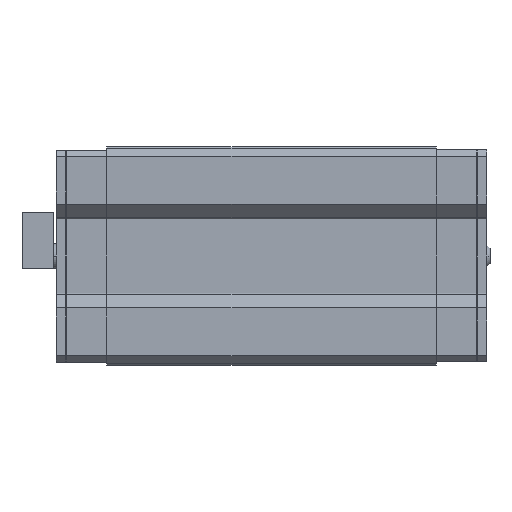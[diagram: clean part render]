
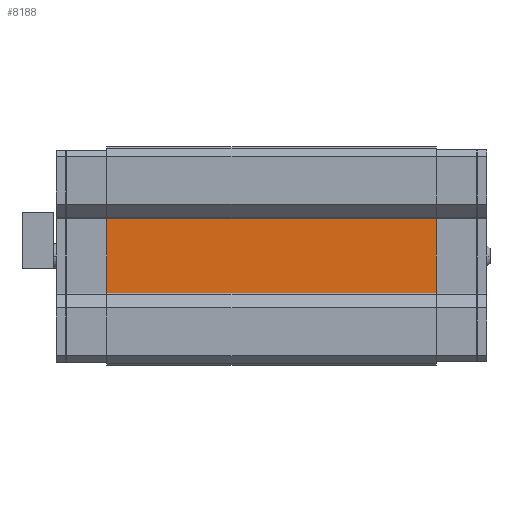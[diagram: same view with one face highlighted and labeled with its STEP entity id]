
A CAD part, front view. The second image highlights one B-rep face of the part: STEP entity #8188.
In plain terms, the highlighted planar face has unit normal (0, -1, 0).
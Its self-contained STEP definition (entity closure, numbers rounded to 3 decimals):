
#85 = DIRECTION ( 'NONE',  ( -1., 0., 0. ) ) ;
#300 = FACE_OUTER_BOUND ( 'NONE', #4747, .T. ) ;
#430 = CARTESIAN_POINT ( 'NONE',  ( 52.9, 0., 6.626 ) ) ;
#542 = LINE ( 'NONE', #430, #5792 ) ;
#850 = VERTEX_POINT ( 'NONE', #2535 ) ;
#923 = LINE ( 'NONE', #2826, #10405 ) ;
#1701 = DIRECTION ( 'NONE',  ( 0., 0., 1. ) ) ;
#1810 = DIRECTION ( 'NONE',  ( -1., 0., 0. ) ) ;
#2006 = DIRECTION ( 'NONE',  ( 0., 0., -1. ) ) ;
#2074 = DIRECTION ( 'NONE',  ( 0., -1., 0. ) ) ;
#2082 = VERTEX_POINT ( 'NONE', #10784 ) ;
#2207 = VERTEX_POINT ( 'NONE', #10645 ) ;
#2535 = CARTESIAN_POINT ( 'NONE',  ( 52.9, 0., 13.251 ) ) ;
#2826 = CARTESIAN_POINT ( 'NONE',  ( -52.9, 0., 6.626 ) ) ;
#3215 = EDGE_CURVE ( 'NONE', #2207, #9275, #923, .T. ) ;
#3416 = EDGE_CURVE ( 'NONE', #850, #2082, #542, .T. ) ;
#3541 = CARTESIAN_POINT ( 'NONE',  ( 69.1, 0., 13.251 ) ) ;
#4226 = ORIENTED_EDGE ( 'NONE', *, *, #10626, .F. ) ;
#4329 = LINE ( 'NONE', #7705, #4766 ) ;
#4747 = EDGE_LOOP ( 'NONE', ( #8197, #4226, #9690, #5721 ) ) ;
#4766 = VECTOR ( 'NONE', #1810, 1000. ) ;
#5249 = CARTESIAN_POINT ( 'NONE',  ( -52.9, 0., 13.251 ) ) ;
#5253 = CARTESIAN_POINT ( 'NONE',  ( -52.9, 0., 13.251 ) ) ;
#5721 = ORIENTED_EDGE ( 'NONE', *, *, #7646, .T. ) ;
#5792 = VECTOR ( 'NONE', #9651, 1000. ) ;
#5918 = LINE ( 'NONE', #3541, #9318 ) ;
#7646 = EDGE_CURVE ( 'NONE', #850, #9275, #5918, .T. ) ;
#7705 = CARTESIAN_POINT ( 'NONE',  ( 69.1, 0., -13.251 ) ) ;
#8188 = ADVANCED_FACE ( 'NONE', ( #300 ), #9689, .T. ) ;
#8197 = ORIENTED_EDGE ( 'NONE', *, *, #3215, .F. ) ;
#9275 = VERTEX_POINT ( 'NONE', #5253 ) ;
#9318 = VECTOR ( 'NONE', #85, 1000. ) ;
#9651 = DIRECTION ( 'NONE',  ( 0., 0., -1. ) ) ;
#9689 = PLANE ( 'NONE',  #10702 ) ;
#9690 = ORIENTED_EDGE ( 'NONE', *, *, #3416, .F. ) ;
#10405 = VECTOR ( 'NONE', #1701, 1000. ) ;
#10626 = EDGE_CURVE ( 'NONE', #2082, #2207, #4329, .T. ) ;
#10645 = CARTESIAN_POINT ( 'NONE',  ( -52.9, 0., -13.251 ) ) ;
#10702 = AXIS2_PLACEMENT_3D ( 'NONE', #5249, #2074, #2006 ) ;
#10784 = CARTESIAN_POINT ( 'NONE',  ( 52.9, 0., -13.251 ) ) ;
